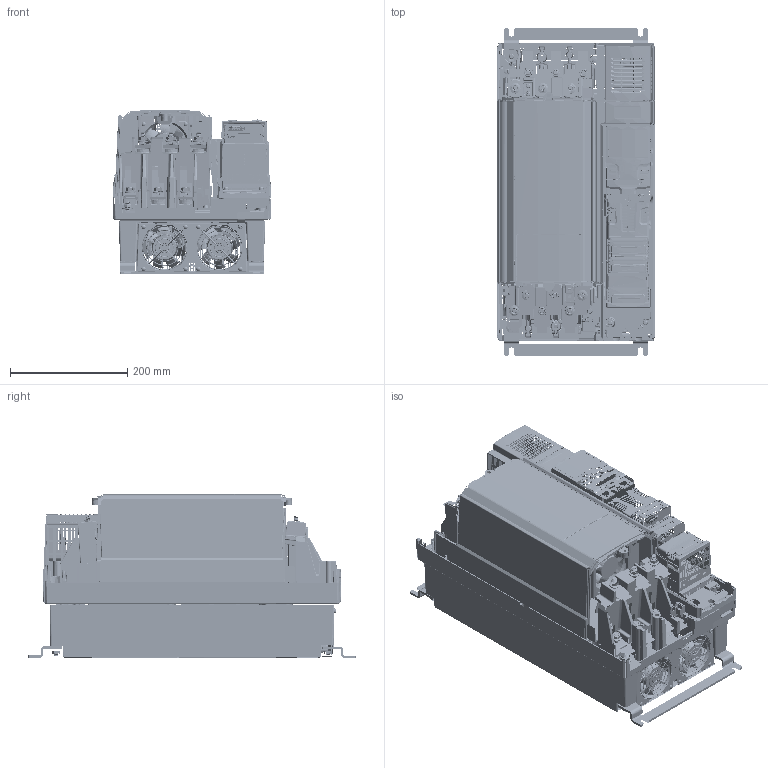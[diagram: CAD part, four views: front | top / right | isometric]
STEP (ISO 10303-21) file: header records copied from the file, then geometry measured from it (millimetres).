
FILE_DESCRIPTION((''),'2;1');
FILE_NAME('INTERNAL_GT8-F09-4','2013-08-29T',('P94061'),(''),'PRO/ENGINEER BY PARAMETRIC TECHNOLOGY CORPORATION, 2011490','PRO/ENGINEER BY PARAMETRIC TECHNOLOGY CORPORATION, 2011490','');
FILE_SCHEMA(('CONFIG_CONTROL_DESIGN'));
Products named in the file (1): INTERNAL_GT8-F09-4
Bounding box: 270.01 x 557 x 279.97 mm (x, y, z)
Surface area: 1605954.3 mm2 (no closed solid volume)
Topology: 0 solids, 1386 shells, 5017 faces, 38396 edges, 34340 vertices
Faces by surface type: plane 2135, cylinder 1867, bspline 413, cone 247, torus 242, extrusion 77, sphere 36
Entity records: 429602 total; most frequent: CARTESIAN_POINT 179939, ORIENTED_EDGE 43528, DIRECTION 41485, EDGE_CURVE 38356, VERTEX_POINT 34338, VECTOR 21279, LINE 21202, B_SPLINE_CURVE_WITH_KNOTS 11650
